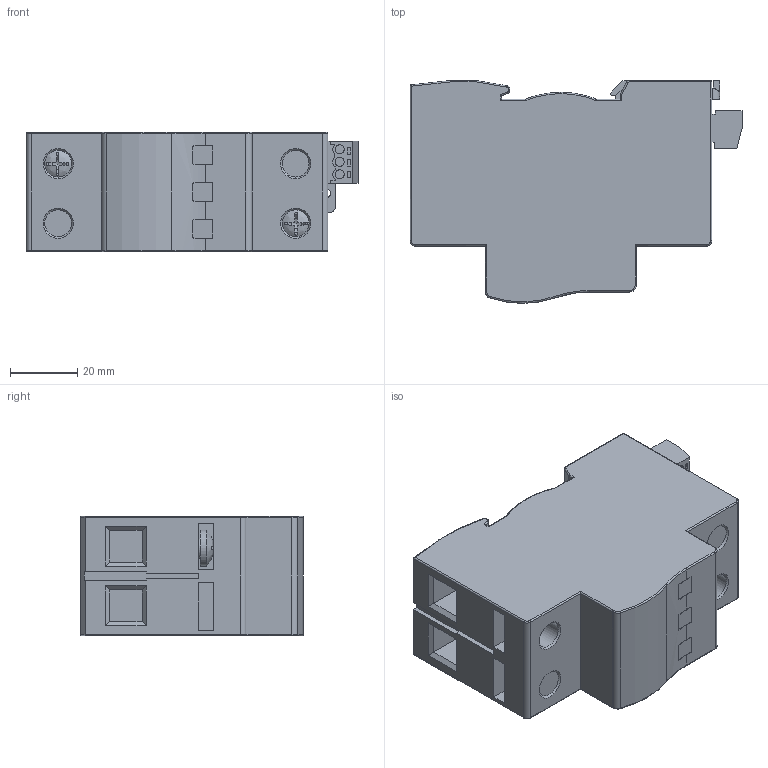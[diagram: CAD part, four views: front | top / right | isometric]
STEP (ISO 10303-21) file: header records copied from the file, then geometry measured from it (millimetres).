
FILE_DESCRIPTION (( 'STEP AP203' ), '1' );
FILE_NAME ('WTH-165.STEP', '2023-05-25T00:57:20', ( 'a' ), ( '' ), 'SwSTEP 2.0', 'SolidWorks 2016', '' );
FILE_SCHEMA (( 'CONFIG_CONTROL_DESIGN' ));
Length unit declared in the file: millimetre
Products named in the file (1): WTH-165
Bounding box: 99 x 66.4 x 35.6 mm (x, y, z)
Volume: 166983.1 mm3; surface area: 28126.7 mm2
Topology: 2 solids, 7 shells, 473 faces, 1218 edges, 786 vertices
Faces by surface type: plane 324, cylinder 97, torus 24, cone 16, bspline 12
Full cylindrical faces by diameter (mm): 2.7 x3, 4.48 x2, 5 x2, 6 x2, 8 x7, 10.8 x2
Entity records: 14603 total; most frequent: CARTESIAN_POINT 3360, ORIENTED_EDGE 2352, DIRECTION 2180, EDGE_CURVE 1176, VECTOR 832, LINE 832, VERTEX_POINT 772, AXIS2_PLACEMENT_3D 674
